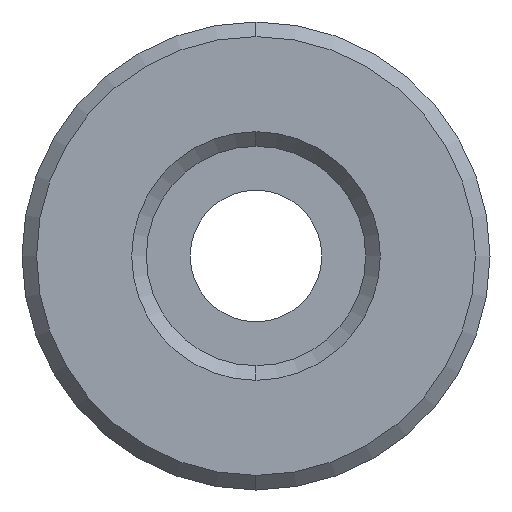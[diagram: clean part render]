
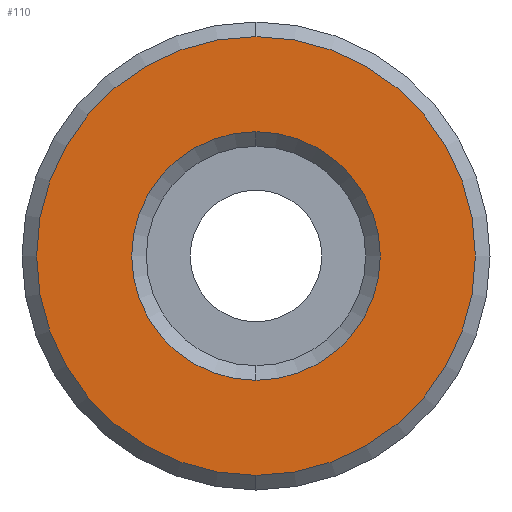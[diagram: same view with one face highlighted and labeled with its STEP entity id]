
A CAD part, left-side view. The second image highlights one B-rep face of the part: STEP entity #110.
In plain terms, the highlighted planar face has unit normal (-1, 0, 0).
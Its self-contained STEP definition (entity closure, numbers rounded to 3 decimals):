
#6 = EDGE_LOOP ( 'NONE', ( #314, #25 ) ) ;
#19 = CARTESIAN_POINT ( 'NONE',  ( 0., 0., 15. ) ) ;
#25 = ORIENTED_EDGE ( 'NONE', *, *, #86, .T. ) ;
#34 = CARTESIAN_POINT ( 'NONE',  ( 0., 0., 0. ) ) ;
#46 = VERTEX_POINT ( 'NONE', #439 ) ;
#66 = CARTESIAN_POINT ( 'NONE',  ( 0., 0., 0. ) ) ;
#71 = CARTESIAN_POINT ( 'NONE',  ( 0., 7.5, 0. ) ) ;
#86 = EDGE_CURVE ( 'NONE', #162, #46, #396, .T. ) ;
#98 = AXIS2_PLACEMENT_3D ( 'NONE', #447, #492, #443 ) ;
#103 = AXIS2_PLACEMENT_3D ( 'NONE', #407, #179, #187 ) ;
#110 = ADVANCED_FACE ( 'NONE', ( #268, #338 ), #115, .F. ) ;
#115 = PLANE ( 'NONE',  #196 ) ;
#118 = EDGE_CURVE ( 'NONE', #225, #493, #446, .T. ) ;
#148 = CIRCLE ( 'NONE', #98, 8.5 ) ;
#149 = ORIENTED_EDGE ( 'NONE', *, *, #209, .T. ) ;
#162 = VERTEX_POINT ( 'NONE', #169 ) ;
#169 = CARTESIAN_POINT ( 'NONE',  ( 0., 0., -8.5 ) ) ;
#178 = CIRCLE ( 'NONE', #103, 15. ) ;
#179 = DIRECTION ( 'NONE',  ( -1., 0., 0. ) ) ;
#187 = DIRECTION ( 'NONE',  ( 0., 0., -1. ) ) ;
#196 = AXIS2_PLACEMENT_3D ( 'NONE', #71, #323, #213 ) ;
#209 = EDGE_CURVE ( 'NONE', #493, #225, #178, .T. ) ;
#213 = DIRECTION ( 'NONE',  ( 0., 0., -1. ) ) ;
#219 = DIRECTION ( 'NONE',  ( 1., 0., 0. ) ) ;
#225 = VERTEX_POINT ( 'NONE', #398 ) ;
#246 = AXIS2_PLACEMENT_3D ( 'NONE', #34, #358, #414 ) ;
#268 = FACE_OUTER_BOUND ( 'NONE', #309, .T. ) ;
#282 = EDGE_CURVE ( 'NONE', #46, #162, #148, .T. ) ;
#309 = EDGE_LOOP ( 'NONE', ( #425, #149 ) ) ;
#314 = ORIENTED_EDGE ( 'NONE', *, *, #282, .T. ) ;
#323 = DIRECTION ( 'NONE',  ( 1., 0., 0. ) ) ;
#338 = FACE_BOUND ( 'NONE', #6, .T. ) ;
#358 = DIRECTION ( 'NONE',  ( -1., 0., 0. ) ) ;
#388 = AXIS2_PLACEMENT_3D ( 'NONE', #66, #219, #455 ) ;
#396 = CIRCLE ( 'NONE', #388, 8.5 ) ;
#398 = CARTESIAN_POINT ( 'NONE',  ( 0., 0., -15. ) ) ;
#407 = CARTESIAN_POINT ( 'NONE',  ( 0., 0., 0. ) ) ;
#414 = DIRECTION ( 'NONE',  ( 0., 0., -1. ) ) ;
#425 = ORIENTED_EDGE ( 'NONE', *, *, #118, .T. ) ;
#439 = CARTESIAN_POINT ( 'NONE',  ( 0., 0., 8.5 ) ) ;
#443 = DIRECTION ( 'NONE',  ( 0., 0., -1. ) ) ;
#446 = CIRCLE ( 'NONE', #246, 15. ) ;
#447 = CARTESIAN_POINT ( 'NONE',  ( 0., 0., 0. ) ) ;
#455 = DIRECTION ( 'NONE',  ( 0., 0., -1. ) ) ;
#492 = DIRECTION ( 'NONE',  ( 1., 0., 0. ) ) ;
#493 = VERTEX_POINT ( 'NONE', #19 ) ;
